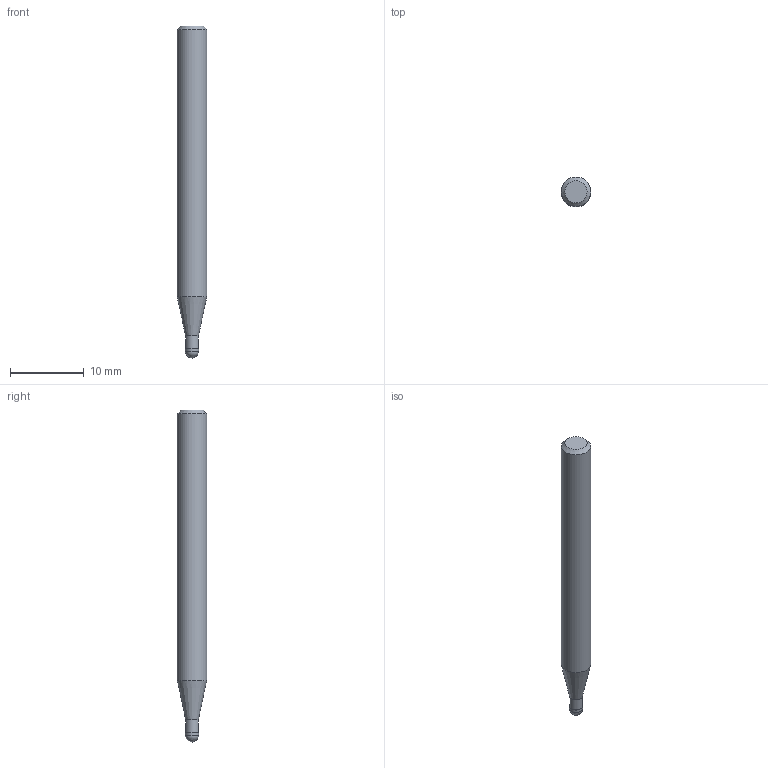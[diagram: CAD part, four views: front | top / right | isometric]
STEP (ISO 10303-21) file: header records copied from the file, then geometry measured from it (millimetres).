
FILE_DESCRIPTION((''),'2;1');
FILE_NAME('C:\Users\nsx150\AppData\Local\Temp\Mastercam 2021\ARV7HD45SN\TEMP.step','2023-06-13T16:36:54',(''),(''),'STEP Write','Mastercam 2021 ... CNC Software, Inc.','');
FILE_SCHEMA(('AUTOMOTIVE_DESIGN'));
Length unit declared in the file: millimetre
Products named in the file (1): None
Bounding box: 4 x 4 x 45 mm (x, y, z)
Volume: 502.3 mm3; surface area: 540.1 mm2
Topology: 2 solids, 2 shells, 9 faces, 14 edges, 8 vertices
Faces by surface type: plane 3, cylinder 3, cone 2, sphere 1
Full cylindrical faces by diameter (mm): 1.74 x1, 1.8 x1, 4 x1
Entity records: 211 total; most frequent: DIRECTION 36, CARTESIAN_POINT 25, AXIS2_PLACEMENT_3D 18, ORIENTED_EDGE 14, EDGE_LOOP 14, STYLED_ITEM 12, ADVANCED_FACE 9, FACE_BOUND 8
